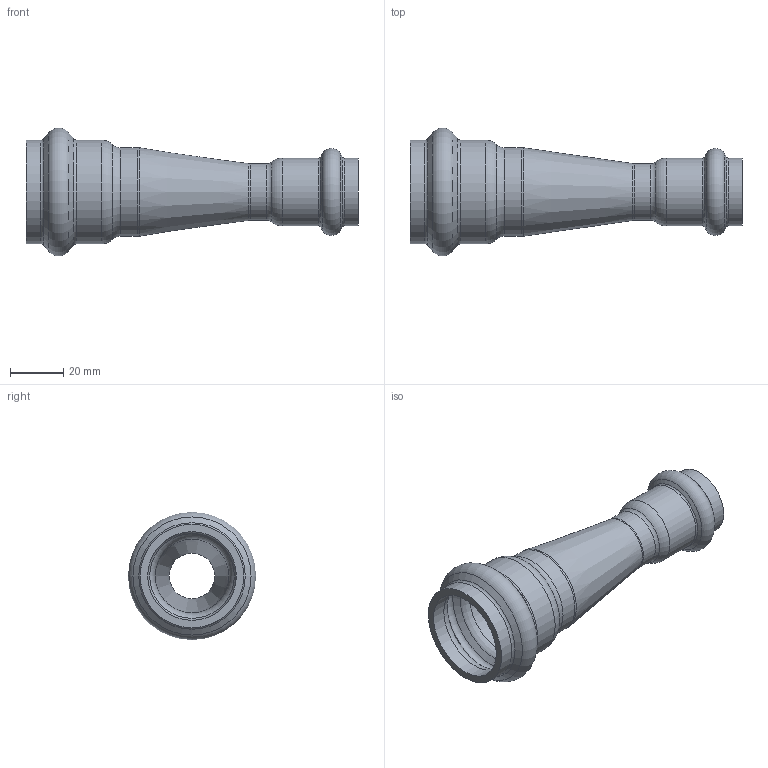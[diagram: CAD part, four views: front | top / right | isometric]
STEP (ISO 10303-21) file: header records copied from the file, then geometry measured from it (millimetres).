
FILE_DESCRIPTION(/* description */ ('VIC REDUCER CONC. STYLE P594 (P X P)','CAx-IF Rec.Pracs.---Representation and Presentation of Product Manufacturing Information (PMI)---4.0---2014-10-13'),/* implementation_level */ '2;1');
FILE_NAME(/* name */ 'C:\Users\Vjadhav\AppData\Roaming\Autodesk\ApplicationPlugins\Back Up\Victaulic_SS-Vic-Press-TP 304_Reducer Concentric_Style P594 (VP)\Victaulic_SS-Vic-Press-TP 304_Reducer Concentric_Style P594 (VP)_01.0x0.50 (25x15).stp',/* time_stamp */ '2020-08-12T18:14:48+06:00',/* author */ ('cgray'),/* organization */ ('Victaulic'),/* preprocessor_version */ 'ST-DEVELOPER v17.2',/* originating_system */ 'Autodesk Inventor 2019',/* authorisation */ '');
FILE_SCHEMA (('AP242_MANAGED_MODEL_BASED_3D_ENGINEERING_MIM_LF { 1 0 10303 442 1 1 4 }'));
Length unit declared in the file: inch
Products named in the file (1): P594-01.0x0.5
Bounding box: 124.97 x 48.13 x 48.13 mm (x, y, z)
Volume: 29883.3 mm3; surface area: 24416.4 mm2
Topology: 1 solids, 1 shells, 48 faces, 182 edges, 136 vertices
Faces by surface type: torus 24, cylinder 12, cone 10, plane 2
Full cylindrical faces by diameter (mm): 17.12 x1, 21.336 x3, 25.552 x2, 27.864 x1, 33.401 x3, 38.938 x2
Entity records: 2282 total; most frequent: DIRECTION 466, CARTESIAN_POINT 384, ORIENTED_EDGE 364, AXIS2_PLACEMENT_3D 222, EDGE_CURVE 182, CIRCLE 160, VERTEX_POINT 136, EDGE_LOOP 50
